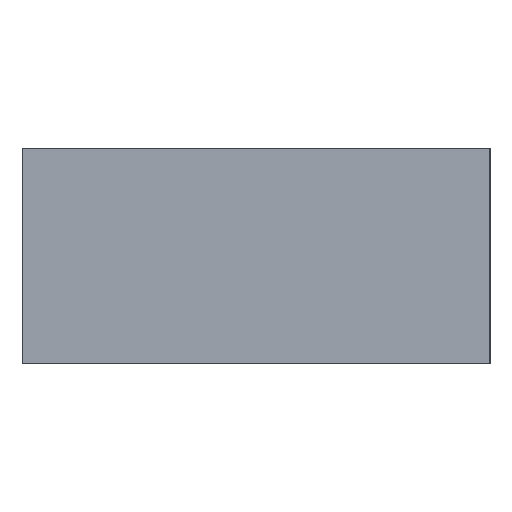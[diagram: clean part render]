
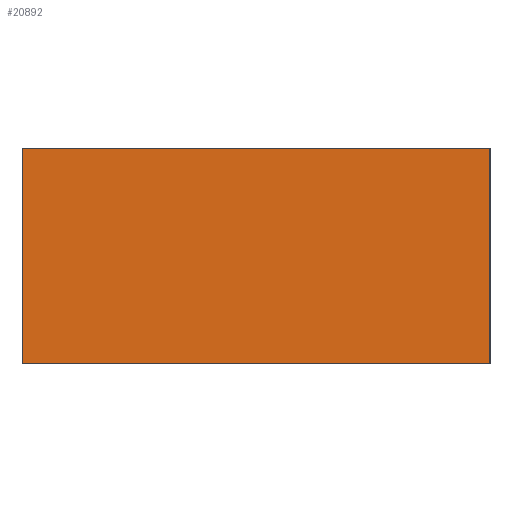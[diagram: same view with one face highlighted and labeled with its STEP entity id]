
A CAD part, left-side view. The second image highlights one B-rep face of the part: STEP entity #20892.
In plain terms, the highlighted planar face has unit normal (-1, 0, 0).
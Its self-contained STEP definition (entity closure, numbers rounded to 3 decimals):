
#776=LINE('',#28897,#928);
#779=LINE('',#28903,#931);
#780=LINE('',#28906,#932);
#781=LINE('',#28907,#933);
#928=VECTOR('',#24312,1000.);
#931=VECTOR('',#24317,1000.);
#932=VECTOR('',#24318,1000.);
#933=VECTOR('',#24319,1000.);
#1090=ORIENTED_EDGE('',*,*,#3873,.T.);
#1091=ORIENTED_EDGE('',*,*,#3874,.F.);
#1092=ORIENTED_EDGE('',*,*,#3870,.F.);
#1093=ORIENTED_EDGE('',*,*,#3875,.T.);
#3870=EDGE_CURVE('',#5261,#5262,#776,.T.);
#3873=EDGE_CURVE('',#5264,#5265,#779,.T.);
#3874=EDGE_CURVE('',#5262,#5265,#780,.T.);
#3875=EDGE_CURVE('',#5261,#5264,#781,.T.);
#5261=VERTEX_POINT('',#28896);
#5262=VERTEX_POINT('',#28898);
#5264=VERTEX_POINT('',#28904);
#5265=VERTEX_POINT('',#28905);
#7583=EDGE_LOOP('',(#1090,#1091,#1092,#1093));
#9817=FACE_BOUND('',#7583,.T.);
#12054=PLANE('',#22078);
#20892=ADVANCED_FACE('',(#9817),#12054,.F.);
#22078=AXIS2_PLACEMENT_3D('',#28902,#24315,#24316);
#24312=DIRECTION('',(0.,0.,-1.));
#24315=DIRECTION('',(1.,0.,0.));
#24316=DIRECTION('',(0.,0.,-1.));
#24317=DIRECTION('',(0.,0.,-1.));
#24318=DIRECTION('',(0.,1.,0.));
#24319=DIRECTION('',(0.,1.,0.));
#28896=CARTESIAN_POINT('',(-67.5,-35.,20.));
#28897=CARTESIAN_POINT('',(-67.5,-35.,20.));
#28898=CARTESIAN_POINT('',(-67.5,-35.,-12.2));
#28902=CARTESIAN_POINT('',(-67.5,35.,20.));
#28903=CARTESIAN_POINT('',(-67.5,35.,20.));
#28904=CARTESIAN_POINT('',(-67.5,35.,20.));
#28905=CARTESIAN_POINT('',(-67.5,35.,-12.2));
#28906=CARTESIAN_POINT('',(-67.5,-35.,-12.2));
#28907=CARTESIAN_POINT('',(-67.5,0.,20.));
